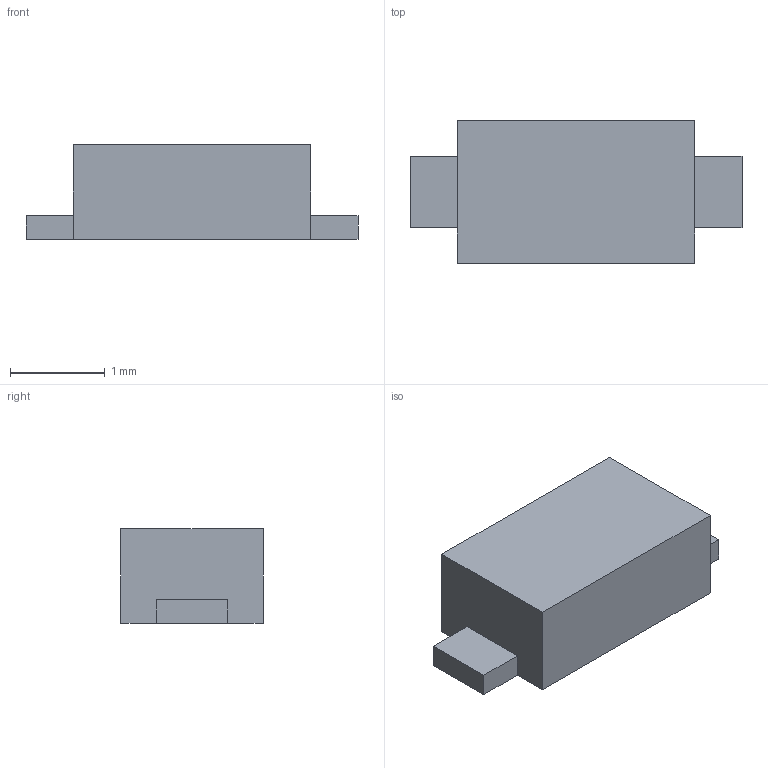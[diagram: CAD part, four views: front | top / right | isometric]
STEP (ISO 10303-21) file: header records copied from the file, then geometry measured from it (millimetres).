
FILE_DESCRIPTION(('FreeCAD Model'),'2;1');
FILE_NAME('Open CASCADE Shape Model','2021-06-28T23:47:24',('Author'),( ''),'Open CASCADE STEP processor 7.5','FreeCAD','Unknown');
FILE_SCHEMA(('AUTOMOTIVE_DESIGN { 1 0 10303 214 1 1 1 1 }'));
Length unit declared in the file: millimetre
Products named in the file (1): Group
Bounding box: 3.5 x 1.5 x 1 mm (x, y, z)
Volume: 3.9 mm3; surface area: 17.5 mm2
Topology: 1 solids, 1 shells, 16 faces, 38 edges, 24 vertices
Faces by surface type: plane 16
Entity records: 1080 total; most frequent: CARTESIAN_POINT 155, DIRECTION 148, LINE 114, VECTOR 114, ORIENTED_EDGE 76, PCURVE 76, DEFINITIONAL_REPRESENTATION 76, EDGE_CURVE 38
